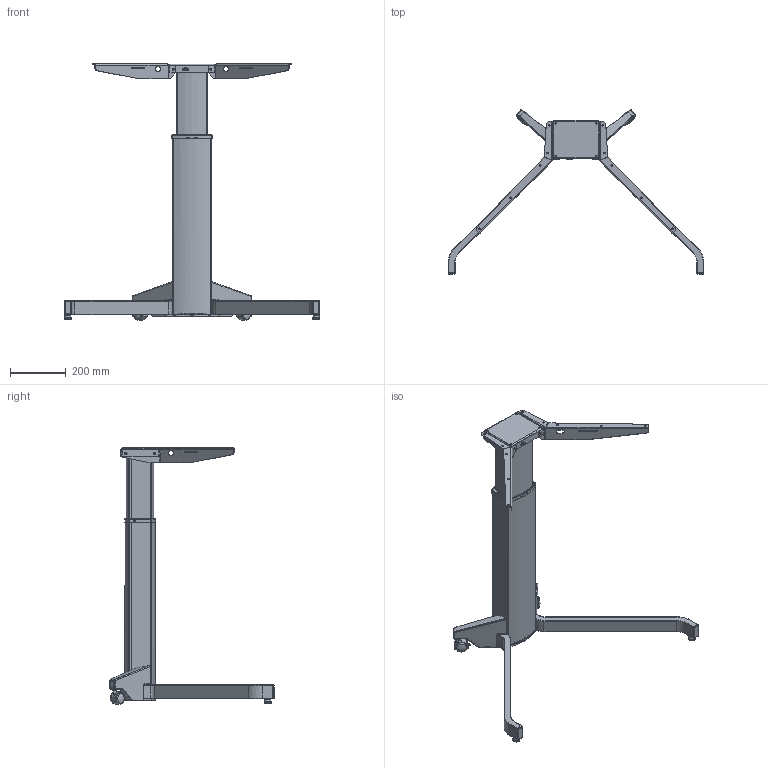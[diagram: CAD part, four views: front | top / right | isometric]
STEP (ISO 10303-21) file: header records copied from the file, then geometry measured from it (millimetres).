
FILE_DESCRIPTION (( 'STEP AP203' ), '1' );
FILE_NAME ('Tech-draw_501-19_XX117.STEP', '2019-11-11T09:38:51', ( '' ), ( '' ), 'SwSTEP 2.0', 'SolidWorks 2018', '' );
FILE_SCHEMA (( 'CONFIG_CONTROL_DESIGN' ));
Length unit declared in the file: millimetre
Products named in the file (40): 301540_Richseat; 148290_silver; 148270_silver; 148280_silver; 148350_silver; 350720; 148260_silver; 311700_Shell view; 107870_silver; 304650_black; 312140; 148310; 149510_501-19 XS117; 311610; 350250; 311630_shell view1; 350240; 350600; 350760; 111500_silver; 311670; 350680; 311680; 306980_black; 107880_Shell view; 350620; 350690; 350670; Tech-draw_501-19_XX117; 107860_silver; 111360_shell view; 350740; 148320; 350750; 350660; 350730; 350610; 148340_silver; 318280; 311690_Shell view
Assembly tree (57 placements, depth 6):
  Tech-draw_501-19_XX117
    149510_501-19 XS117
      111500_silver
        107870_silver
          107860_silver
            311670
            311680
            311610
            350250
        111360_shell view
          107880_Shell view
            311690_Shell view
            311700_Shell view
            311630_shell view1
          312140
          350240
        306980_black  x4
      304650_black  x10
      148270_silver
        350730
        350690
        318280  x2
      148290_silver
        350600
        350680
        318280  x2
      148340_silver
        148260_silver
          350610
          350660
        301540_Richseat
      148350_silver
        148280_silver
          350620
          350670
        301540_Richseat
      148310
        350740
        350760
      148320
        350750
        350760
      350720  x2
Bounding box: 917.6 x 589.91 x 919.55 mm (x, y, z)
Volume: 2214260.9 mm3; surface area: 1945285.6 mm2
Topology: 43 solids, 47 shells, 2185 faces, 5574 edges, 3569 vertices
Faces by surface type: plane 1181, cylinder 683, bspline 155, torus 116, sphere 28, cone 22
Full cylindrical faces by diameter (mm): 2 x2, 4 x4, 4.3 x2, 4.5 x6, 5 x22, 6 x50, 6.5 x16, 7 x10, 8 x26, 8.3 x8, 8.5 x2, 10 x8, 10.5 x2, 11 x2, 37.8 x1, 39.5 x2
Entity records: 67235 total; most frequent: CARTESIAN_POINT 22900, ORIENTED_EDGE 8218, DIRECTION 7913, EDGE_CURVE 4109, VERTEX_POINT 2685, AXIS2_PLACEMENT_3D 2677, LINE 2559, VECTOR 2559
